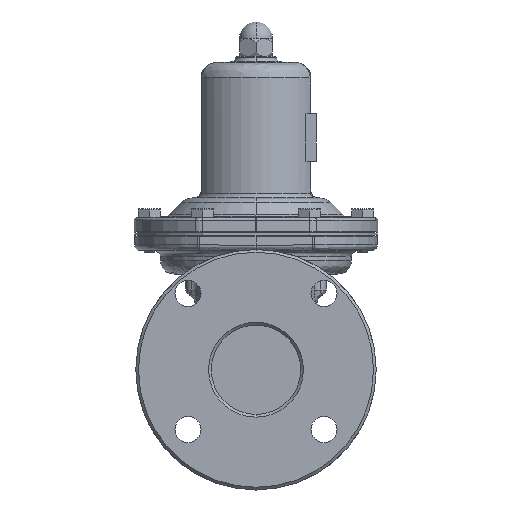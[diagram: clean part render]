
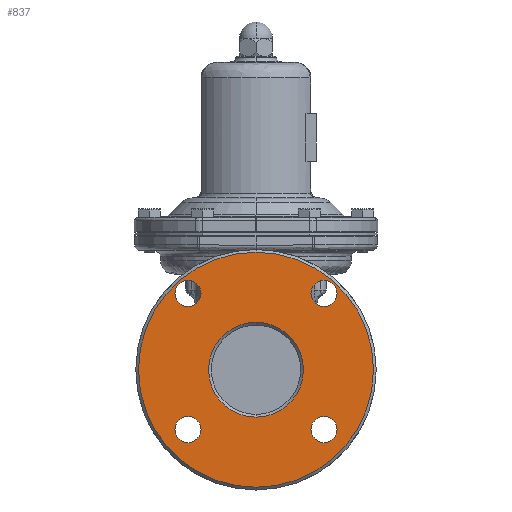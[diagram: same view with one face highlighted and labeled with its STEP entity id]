
A CAD part, left-side view. The second image highlights one B-rep face of the part: STEP entity #837.
In plain terms, the highlighted planar face has unit normal (-1, 0, 0).
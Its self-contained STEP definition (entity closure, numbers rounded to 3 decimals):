
#837=ADVANCED_FACE('',(#5634,#5635,#5636,#5637,#5638,#5639),#5633,.F.);
#5633=PLANE('',#13824);
#5634=FACE_OUTER_BOUND('',#13825,.T.);
#5635=FACE_BOUND('',#13826,.T.);
#5636=FACE_BOUND('',#13827,.T.);
#5637=FACE_BOUND('',#13828,.T.);
#5638=FACE_BOUND('',#13829,.T.);
#5639=FACE_BOUND('',#13830,.T.);
#13821=CARTESIAN_POINT('',(-110.,-158.09,181.));
#13822=DIRECTION('',(1.,0.,0.));
#13823=DIRECTION('',(0.,0.,-1.));
#13824=AXIS2_PLACEMENT_3D('',#13821,#13822,#13823);
#13825=EDGE_LOOP('',(#18277,#18278));
#13826=EDGE_LOOP('',(#18279,#18280));
#13827=EDGE_LOOP('',(#18281,#18282));
#13828=EDGE_LOOP('',(#18283,#18284));
#13829=EDGE_LOOP('',(#18285,#18286));
#13830=EDGE_LOOP('',(#18287,#18288));
#18277=ORIENTED_EDGE('',*,*,#20352,.T.);
#18278=ORIENTED_EDGE('',*,*,#20353,.T.);
#18279=ORIENTED_EDGE('',*,*,#20354,.T.);
#18280=ORIENTED_EDGE('',*,*,#20355,.T.);
#18281=ORIENTED_EDGE('',*,*,#20356,.F.);
#18282=ORIENTED_EDGE('',*,*,#20357,.F.);
#18283=ORIENTED_EDGE('',*,*,#20358,.F.);
#18284=ORIENTED_EDGE('',*,*,#20359,.F.);
#18285=ORIENTED_EDGE('',*,*,#20360,.T.);
#18286=ORIENTED_EDGE('',*,*,#20361,.T.);
#18287=ORIENTED_EDGE('',*,*,#20362,.T.);
#18288=ORIENTED_EDGE('',*,*,#20363,.T.);
#20352=EDGE_CURVE('',#29275,#29276,#29277,.T.);
#20353=EDGE_CURVE('',#29276,#29275,#29283,.T.);
#20354=EDGE_CURVE('',#29289,#29290,#29291,.T.);
#20355=EDGE_CURVE('',#29290,#29289,#29297,.T.);
#20356=EDGE_CURVE('',#29303,#29304,#29305,.T.);
#20357=EDGE_CURVE('',#29304,#29303,#29311,.T.);
#20358=EDGE_CURVE('',#29317,#29318,#29319,.T.);
#20359=EDGE_CURVE('',#29318,#29317,#29325,.T.);
#20360=EDGE_CURVE('',#29331,#29332,#29333,.T.);
#20361=EDGE_CURVE('',#29332,#29331,#29339,.T.);
#20362=EDGE_CURVE('',#29345,#29346,#29347,.T.);
#20363=EDGE_CURVE('',#29346,#29345,#29353,.T.);
#29275=VERTEX_POINT('',#40264);
#29276=VERTEX_POINT('',#40265);
#29277=CIRCLE('',#40269,85.5);
#29283=CIRCLE('',#40273,85.5);
#29289=VERTEX_POINT('',#40274);
#29290=VERTEX_POINT('',#40275);
#29291=CIRCLE('',#40279,9.5);
#29297=CIRCLE('',#40283,9.5);
#29303=VERTEX_POINT('',#40284);
#29304=VERTEX_POINT('',#40285);
#29305=CIRCLE('',#40289,9.5);
#29311=CIRCLE('',#40293,9.5);
#29317=VERTEX_POINT('',#40294);
#29318=VERTEX_POINT('',#40295);
#29319=CIRCLE('',#40299,9.5);
#29325=CIRCLE('',#40303,9.5);
#29331=VERTEX_POINT('',#40304);
#29332=VERTEX_POINT('',#40305);
#29333=CIRCLE('',#40309,34.5);
#29339=CIRCLE('',#40313,34.5);
#29345=VERTEX_POINT('',#40314);
#29346=VERTEX_POINT('',#40315);
#29347=CIRCLE('',#40319,9.5);
#29353=CIRCLE('',#40323,9.5);
#40264=CARTESIAN_POINT('',(-110.,0.,-85.5));
#40265=CARTESIAN_POINT('',(-110.,0.,85.5));
#40266=CARTESIAN_POINT('',(-110.,0.,0.));
#40267=DIRECTION('',(-1.,0.,0.));
#40268=DIRECTION('',(0.,0.,-1.));
#40269=AXIS2_PLACEMENT_3D('',#40266,#40267,#40268);
#40270=CARTESIAN_POINT('',(-110.,0.,0.));
#40271=DIRECTION('',(-1.,0.,0.));
#40272=DIRECTION('',(0.,0.,-1.));
#40273=AXIS2_PLACEMENT_3D('',#40270,#40271,#40272);
#40274=CARTESIAN_POINT('',(-110.,-49.498,45.997));
#40275=CARTESIAN_POINT('',(-110.,-49.498,64.997));
#40276=CARTESIAN_POINT('',(-110.,-49.498,55.497));
#40277=DIRECTION('',(1.,0.,0.));
#40278=DIRECTION('',(0.,0.,-1.));
#40279=AXIS2_PLACEMENT_3D('',#40276,#40277,#40278);
#40280=CARTESIAN_POINT('',(-110.,-49.498,55.497));
#40281=DIRECTION('',(1.,0.,0.));
#40282=DIRECTION('',(0.,0.,-1.));
#40283=AXIS2_PLACEMENT_3D('',#40280,#40281,#40282);
#40284=CARTESIAN_POINT('',(-110.,49.498,-33.997));
#40285=CARTESIAN_POINT('',(-110.,49.498,-52.997));
#40286=CARTESIAN_POINT('',(-110.,49.498,-43.497));
#40287=DIRECTION('',(-1.,0.,0.));
#40288=DIRECTION('',(0.,0.,-1.));
#40289=AXIS2_PLACEMENT_3D('',#40286,#40287,#40288);
#40290=CARTESIAN_POINT('',(-110.,49.498,-43.497));
#40291=DIRECTION('',(-1.,0.,0.));
#40292=DIRECTION('',(0.,0.,-1.));
#40293=AXIS2_PLACEMENT_3D('',#40290,#40291,#40292);
#40294=CARTESIAN_POINT('',(-110.,49.498,64.997));
#40295=CARTESIAN_POINT('',(-110.,49.498,45.997));
#40296=CARTESIAN_POINT('',(-110.,49.498,55.497));
#40297=DIRECTION('',(-1.,0.,0.));
#40298=DIRECTION('',(0.,0.,-1.));
#40299=AXIS2_PLACEMENT_3D('',#40296,#40297,#40298);
#40300=CARTESIAN_POINT('',(-110.,49.498,55.497));
#40301=DIRECTION('',(-1.,0.,0.));
#40302=DIRECTION('',(0.,0.,-1.));
#40303=AXIS2_PLACEMENT_3D('',#40300,#40301,#40302);
#40304=CARTESIAN_POINT('',(-110.,0.,-34.5));
#40305=CARTESIAN_POINT('',(-110.,0.,34.5));
#40306=CARTESIAN_POINT('',(-110.,0.,0.));
#40307=DIRECTION('',(1.,0.,0.));
#40308=DIRECTION('',(0.,0.,-1.));
#40309=AXIS2_PLACEMENT_3D('',#40306,#40307,#40308);
#40310=CARTESIAN_POINT('',(-110.,0.,0.));
#40311=DIRECTION('',(1.,0.,0.));
#40312=DIRECTION('',(0.,0.,-1.));
#40313=AXIS2_PLACEMENT_3D('',#40310,#40311,#40312);
#40314=CARTESIAN_POINT('',(-110.,-49.498,-52.997));
#40315=CARTESIAN_POINT('',(-110.,-49.498,-33.997));
#40316=CARTESIAN_POINT('',(-110.,-49.498,-43.497));
#40317=DIRECTION('',(1.,0.,0.));
#40318=DIRECTION('',(0.,0.,-1.));
#40319=AXIS2_PLACEMENT_3D('',#40316,#40317,#40318);
#40320=CARTESIAN_POINT('',(-110.,-49.498,-43.497));
#40321=DIRECTION('',(1.,0.,0.));
#40322=DIRECTION('',(0.,0.,-1.));
#40323=AXIS2_PLACEMENT_3D('',#40320,#40321,#40322);
